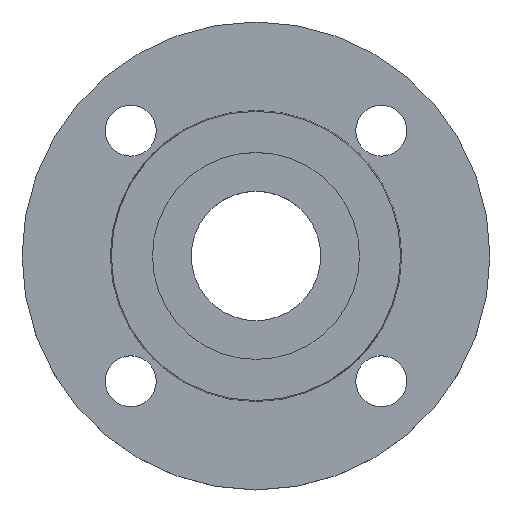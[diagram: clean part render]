
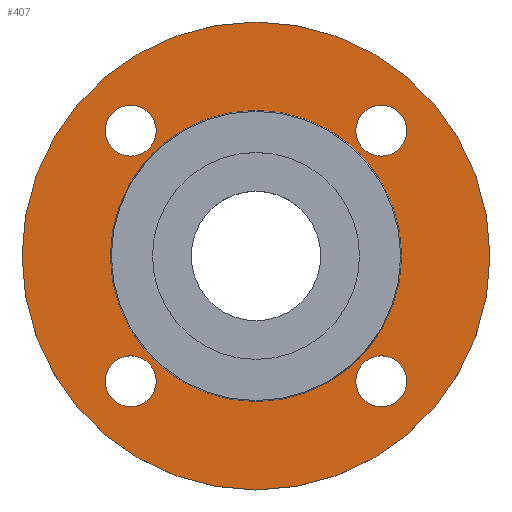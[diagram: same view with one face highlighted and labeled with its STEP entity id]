
A CAD part, top view. The second image highlights one B-rep face of the part: STEP entity #407.
In plain terms, the highlighted planar face has unit normal (0, 0, 1).
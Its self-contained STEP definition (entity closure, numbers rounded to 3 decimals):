
#2 = CIRCLE ( 'NONE', #194, 9. ) ;
#3 = DIRECTION ( 'NONE',  ( 1., 0., 0. ) ) ;
#6 = CARTESIAN_POINT ( 'NONE',  ( 44.194, -44.194, -2. ) ) ;
#21 = CARTESIAN_POINT ( 'NONE',  ( 44.194, 44.194, -2. ) ) ;
#24 = EDGE_CURVE ( 'NONE', #784, #91, #491, .T. ) ;
#43 = CARTESIAN_POINT ( 'NONE',  ( 0., 0., -2. ) ) ;
#47 = EDGE_CURVE ( 'NONE', #139, #230, #645, .T. ) ;
#56 = VERTEX_POINT ( 'NONE', #701 ) ;
#91 = VERTEX_POINT ( 'NONE', #581 ) ;
#99 = AXIS2_PLACEMENT_3D ( 'NONE', #585, #590, #125 ) ;
#101 = VERTEX_POINT ( 'NONE', #697 ) ;
#115 = DIRECTION ( 'NONE',  ( 0., 0., -1. ) ) ;
#117 = FACE_BOUND ( 'NONE', #396, .T. ) ;
#121 = FACE_BOUND ( 'NONE', #606, .T. ) ;
#123 = EDGE_CURVE ( 'NONE', #349, #364, #124, .T. ) ;
#124 = CIRCLE ( 'NONE', #140, 82.5 ) ;
#125 = DIRECTION ( 'NONE',  ( 1., 0., 0. ) ) ;
#127 = VERTEX_POINT ( 'NONE', #287 ) ;
#131 = FACE_BOUND ( 'NONE', #770, .T. ) ;
#132 = DIRECTION ( 'NONE',  ( -1., 0., 0. ) ) ;
#139 = VERTEX_POINT ( 'NONE', #573 ) ;
#140 = AXIS2_PLACEMENT_3D ( 'NONE', #744, #790, #227 ) ;
#145 = DIRECTION ( 'NONE',  ( 0., 0., -1. ) ) ;
#155 = CARTESIAN_POINT ( 'NONE',  ( -51.353, 0., -2. ) ) ;
#176 = FACE_BOUND ( 'NONE', #464, .T. ) ;
#183 = CARTESIAN_POINT ( 'NONE',  ( -44.194, -44.194, -2. ) ) ;
#194 = AXIS2_PLACEMENT_3D ( 'NONE', #247, #115, #3 ) ;
#203 = EDGE_LOOP ( 'NONE', ( #222, #276 ) ) ;
#206 = ORIENTED_EDGE ( 'NONE', *, *, #528, .T. ) ;
#216 = AXIS2_PLACEMENT_3D ( 'NONE', #409, #145, #676 ) ;
#217 = ORIENTED_EDGE ( 'NONE', *, *, #47, .T. ) ;
#218 = AXIS2_PLACEMENT_3D ( 'NONE', #6, #313, #252 ) ;
#222 = ORIENTED_EDGE ( 'NONE', *, *, #123, .F. ) ;
#227 = DIRECTION ( 'NONE',  ( -1., 0., 0. ) ) ;
#230 = VERTEX_POINT ( 'NONE', #155 ) ;
#232 = EDGE_CURVE ( 'NONE', #127, #101, #553, .T. ) ;
#235 = DIRECTION ( 'NONE',  ( 0., 0., -1. ) ) ;
#237 = FACE_BOUND ( 'NONE', #260, .T. ) ;
#241 = DIRECTION ( 'NONE',  ( 0., 0., -1. ) ) ;
#247 = CARTESIAN_POINT ( 'NONE',  ( 44.194, -44.194, -2. ) ) ;
#252 = DIRECTION ( 'NONE',  ( 1., 0., 0. ) ) ;
#260 = EDGE_LOOP ( 'NONE', ( #206, #534 ) ) ;
#261 = DIRECTION ( 'NONE',  ( 0., 0., -1. ) ) ;
#276 = ORIENTED_EDGE ( 'NONE', *, *, #571, .F. ) ;
#287 = CARTESIAN_POINT ( 'NONE',  ( -53.194, 44.194, -2. ) ) ;
#293 = DIRECTION ( 'NONE',  ( -1., 0., 0. ) ) ;
#298 = EDGE_CURVE ( 'NONE', #433, #56, #605, .T. ) ;
#299 = DIRECTION ( 'NONE',  ( 1., 0., 0. ) ) ;
#303 = DIRECTION ( 'NONE',  ( 1., 0., 0. ) ) ;
#309 = DIRECTION ( 'NONE',  ( 1., 0., 0. ) ) ;
#313 = DIRECTION ( 'NONE',  ( 0., 0., -1. ) ) ;
#321 = EDGE_CURVE ( 'NONE', #432, #672, #2, .T. ) ;
#326 = CIRCLE ( 'NONE', #615, 51.353 ) ;
#335 = ORIENTED_EDGE ( 'NONE', *, *, #469, .T. ) ;
#349 = VERTEX_POINT ( 'NONE', #764 ) ;
#364 = VERTEX_POINT ( 'NONE', #760 ) ;
#366 = EDGE_CURVE ( 'NONE', #672, #432, #694, .T. ) ;
#375 = CARTESIAN_POINT ( 'NONE',  ( -44.194, -44.194, -2. ) ) ;
#396 = EDGE_LOOP ( 'NONE', ( #591, #763 ) ) ;
#403 = EDGE_CURVE ( 'NONE', #56, #433, #791, .T. ) ;
#407 = ADVANCED_FACE ( 'NONE', ( #176, #117, #121, #237, #131, #462 ), #706, .T. ) ;
#409 = CARTESIAN_POINT ( 'NONE',  ( 0., 0., -2. ) ) ;
#432 = VERTEX_POINT ( 'NONE', #751 ) ;
#433 = VERTEX_POINT ( 'NONE', #708 ) ;
#444 = DIRECTION ( 'NONE',  ( 0., 0., -1. ) ) ;
#447 = AXIS2_PLACEMENT_3D ( 'NONE', #21, #261, #609 ) ;
#451 = CARTESIAN_POINT ( 'NONE',  ( 44.194, 44.194, -2. ) ) ;
#452 = CARTESIAN_POINT ( 'NONE',  ( -44.194, 44.194, -2. ) ) ;
#462 = FACE_OUTER_BOUND ( 'NONE', #203, .T. ) ;
#463 = DIRECTION ( 'NONE',  ( 1., 0., 0. ) ) ;
#464 = EDGE_LOOP ( 'NONE', ( #794, #540 ) ) ;
#465 = CIRCLE ( 'NONE', #447, 9. ) ;
#467 = EDGE_CURVE ( 'NONE', #230, #139, #326, .T. ) ;
#469 = EDGE_CURVE ( 'NONE', #101, #127, #579, .T. ) ;
#491 = CIRCLE ( 'NONE', #567, 9. ) ;
#493 = DIRECTION ( 'NONE',  ( 0., 0., -1. ) ) ;
#499 = CARTESIAN_POINT ( 'NONE',  ( 35.194, 44.194, -2. ) ) ;
#528 = EDGE_CURVE ( 'NONE', #91, #784, #465, .T. ) ;
#534 = ORIENTED_EDGE ( 'NONE', *, *, #24, .T. ) ;
#540 = ORIENTED_EDGE ( 'NONE', *, *, #366, .T. ) ;
#548 = AXIS2_PLACEMENT_3D ( 'NONE', #797, #235, #293 ) ;
#549 = AXIS2_PLACEMENT_3D ( 'NONE', #452, #757, #303 ) ;
#553 = CIRCLE ( 'NONE', #576, 9. ) ;
#567 = AXIS2_PLACEMENT_3D ( 'NONE', #451, #799, #309 ) ;
#571 = EDGE_CURVE ( 'NONE', #364, #349, #734, .T. ) ;
#572 = ORIENTED_EDGE ( 'NONE', *, *, #467, .T. ) ;
#573 = CARTESIAN_POINT ( 'NONE',  ( 51.353, 0., -2. ) ) ;
#576 = AXIS2_PLACEMENT_3D ( 'NONE', #733, #493, #782 ) ;
#579 = CIRCLE ( 'NONE', #549, 9. ) ;
#581 = CARTESIAN_POINT ( 'NONE',  ( 53.194, 44.194, -2. ) ) ;
#585 = CARTESIAN_POINT ( 'NONE',  ( 51.353, 0., -2. ) ) ;
#590 = DIRECTION ( 'NONE',  ( 0., 0., 1. ) ) ;
#591 = ORIENTED_EDGE ( 'NONE', *, *, #403, .T. ) ;
#605 = CIRCLE ( 'NONE', #713, 9. ) ;
#606 = EDGE_LOOP ( 'NONE', ( #335, #729 ) ) ;
#609 = DIRECTION ( 'NONE',  ( 1., 0., 0. ) ) ;
#615 = AXIS2_PLACEMENT_3D ( 'NONE', #43, #444, #132 ) ;
#645 = CIRCLE ( 'NONE', #548, 51.353 ) ;
#650 = DIRECTION ( 'NONE',  ( 0., 0., -1. ) ) ;
#661 = AXIS2_PLACEMENT_3D ( 'NONE', #183, #241, #463 ) ;
#672 = VERTEX_POINT ( 'NONE', #786 ) ;
#676 = DIRECTION ( 'NONE',  ( -1., 0., 0. ) ) ;
#694 = CIRCLE ( 'NONE', #218, 9. ) ;
#697 = CARTESIAN_POINT ( 'NONE',  ( -35.194, 44.194, -2. ) ) ;
#701 = CARTESIAN_POINT ( 'NONE',  ( -35.194, -44.194, -2. ) ) ;
#706 = PLANE ( 'NONE',  #99 ) ;
#708 = CARTESIAN_POINT ( 'NONE',  ( -53.194, -44.194, -2. ) ) ;
#713 = AXIS2_PLACEMENT_3D ( 'NONE', #375, #650, #299 ) ;
#729 = ORIENTED_EDGE ( 'NONE', *, *, #232, .T. ) ;
#733 = CARTESIAN_POINT ( 'NONE',  ( -44.194, 44.194, -2. ) ) ;
#734 = CIRCLE ( 'NONE', #216, 82.5 ) ;
#744 = CARTESIAN_POINT ( 'NONE',  ( 0., 0., -2. ) ) ;
#751 = CARTESIAN_POINT ( 'NONE',  ( 53.194, -44.194, -2. ) ) ;
#757 = DIRECTION ( 'NONE',  ( 0., 0., -1. ) ) ;
#760 = CARTESIAN_POINT ( 'NONE',  ( -82.5, 0., -2. ) ) ;
#763 = ORIENTED_EDGE ( 'NONE', *, *, #298, .T. ) ;
#764 = CARTESIAN_POINT ( 'NONE',  ( 82.5, 0., -2. ) ) ;
#770 = EDGE_LOOP ( 'NONE', ( #572, #217 ) ) ;
#782 = DIRECTION ( 'NONE',  ( 1., 0., 0. ) ) ;
#784 = VERTEX_POINT ( 'NONE', #499 ) ;
#786 = CARTESIAN_POINT ( 'NONE',  ( 35.194, -44.194, -2. ) ) ;
#790 = DIRECTION ( 'NONE',  ( 0., 0., -1. ) ) ;
#791 = CIRCLE ( 'NONE', #661, 9. ) ;
#794 = ORIENTED_EDGE ( 'NONE', *, *, #321, .T. ) ;
#797 = CARTESIAN_POINT ( 'NONE',  ( 0., 0., -2. ) ) ;
#799 = DIRECTION ( 'NONE',  ( 0., 0., -1. ) ) ;
